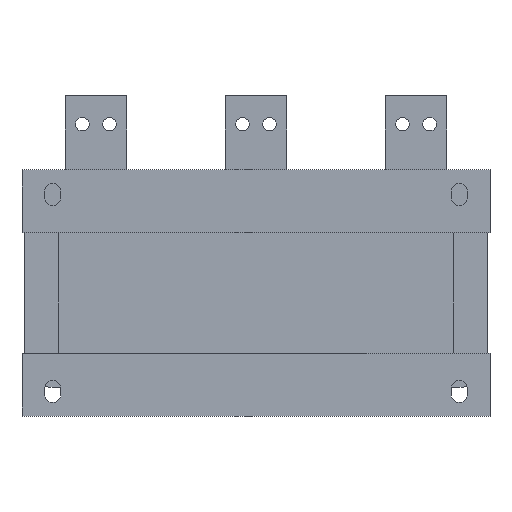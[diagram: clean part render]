
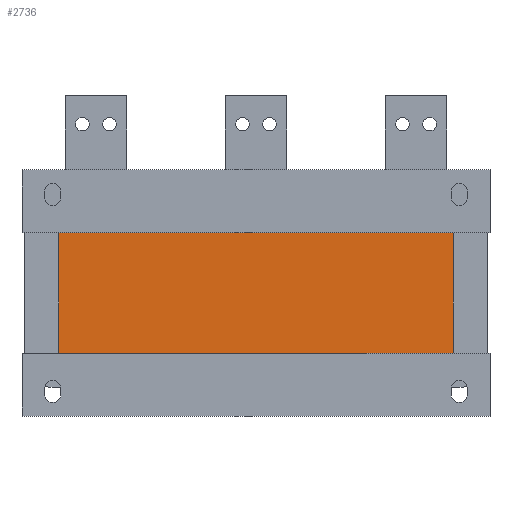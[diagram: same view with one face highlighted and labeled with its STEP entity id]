
A CAD part, front view. The second image highlights one B-rep face of the part: STEP entity #2736.
In plain terms, the highlighted planar face has unit normal (0, -1, 0).
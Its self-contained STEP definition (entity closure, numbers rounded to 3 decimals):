
#104=PLANE('',#2950);
#234=FACE_OUTER_BOUND('',#400,.T.);
#400=EDGE_LOOP('',(#2199,#2200,#2201,#2202));
#642=LINE('',#4227,#966);
#643=LINE('',#4229,#967);
#644=LINE('',#4231,#968);
#645=LINE('',#4232,#969);
#966=VECTOR('',#3454,10.);
#967=VECTOR('',#3455,10.);
#968=VECTOR('',#3456,10.);
#969=VECTOR('',#3457,10.);
#1341=VERTEX_POINT('',#4225);
#1342=VERTEX_POINT('',#4226);
#1343=VERTEX_POINT('',#4228);
#1344=VERTEX_POINT('',#4230);
#1664=EDGE_CURVE('',#1341,#1342,#642,.T.);
#1665=EDGE_CURVE('',#1343,#1341,#643,.T.);
#1666=EDGE_CURVE('',#1344,#1343,#644,.T.);
#1667=EDGE_CURVE('',#1342,#1344,#645,.T.);
#2199=ORIENTED_EDGE('',*,*,#1664,.F.);
#2200=ORIENTED_EDGE('',*,*,#1665,.F.);
#2201=ORIENTED_EDGE('',*,*,#1666,.F.);
#2202=ORIENTED_EDGE('',*,*,#1667,.F.);
#2736=ADVANCED_FACE('',(#234),#104,.F.);
#2950=AXIS2_PLACEMENT_3D('',#4224,#3452,#3453);
#3452=DIRECTION('center_axis',(0.,1.,0.));
#3453=DIRECTION('ref_axis',(0.,0.,1.));
#3454=DIRECTION('',(1.,0.,0.));
#3455=DIRECTION('',(0.,0.,1.));
#3456=DIRECTION('',(-1.,0.,0.));
#3457=DIRECTION('',(0.,0.,-1.));
#4224=CARTESIAN_POINT('Origin',(0.,2.,0.));
#4225=CARTESIAN_POINT('',(-160.,2.,49.));
#4226=CARTESIAN_POINT('',(160.,2.,49.));
#4227=CARTESIAN_POINT('',(160.,2.,49.));
#4228=CARTESIAN_POINT('',(-160.,2.,-49.));
#4229=CARTESIAN_POINT('',(-160.,2.,-24.5));
#4230=CARTESIAN_POINT('',(160.,2.,-49.));
#4231=CARTESIAN_POINT('',(-160.,2.,-49.));
#4232=CARTESIAN_POINT('',(160.,2.,24.5));
